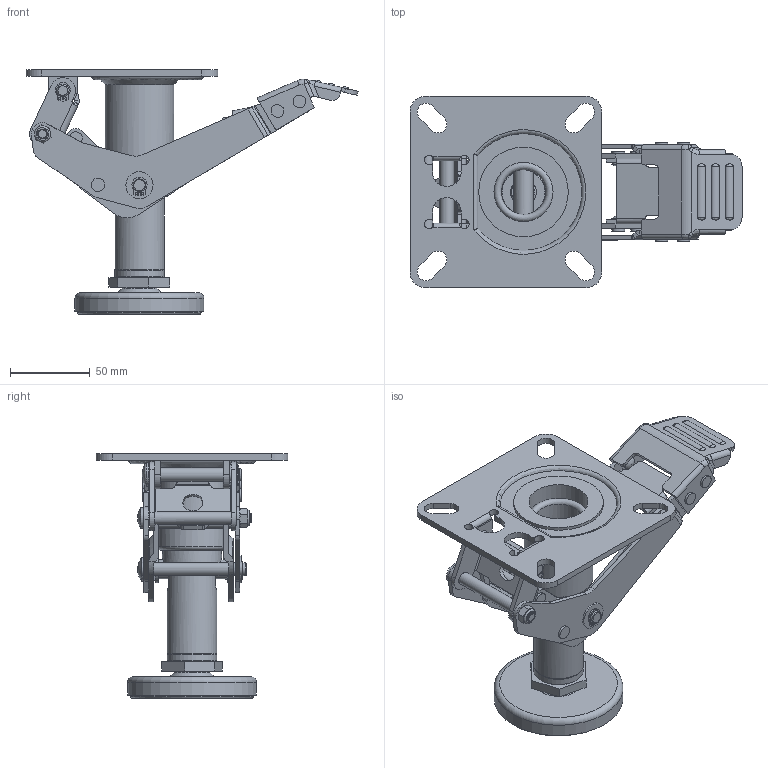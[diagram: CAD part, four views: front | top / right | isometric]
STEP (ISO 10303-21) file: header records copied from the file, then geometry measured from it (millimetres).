
FILE_DESCRIPTION(/* description */ (''),/* implementation_level */ '2;1');
FILE_NAME(/* name */ '99B02_5.stp',/* time_stamp */ '2022-10-07T12:44:04+08:00',/* author */ (''),/* organization */ (''),/* preprocessor_version */ 'ST-DEVELOPER v14',/* originating_system */ 'SIEMENS PLM Software NX 8.0',/* authorisation */ '');
FILE_SCHEMA (('AUTOMOTIVE_DESIGN { 1 0 10303 214 3 1 1 1 }'));
Length unit declared in the file: millimetre
Products named in the file (1): 99B02_5
Bounding box: 207.72 x 120 x 153 mm (x, y, z)
Volume: 265918 mm3; surface area: 152238.1 mm2
Topology: 1 solids, 16 shells, 767 faces, 1902 edges, 1215 vertices
Faces by surface type: plane 355, cylinder 271, bspline 45, torus 42, cone 40, sphere 12, revolution 1, extrusion 1
Full cylindrical faces by diameter (mm): 1.194 x4, 5 x10, 5.2 x4, 5.3 x10, 6 x2, 6.3 x3, 7.3 x1, 7.4 x1, 8 x24, 8.2 x2, 8.3 x1, 8.4 x2, 8.5 x4, 8.6 x4, 10 x1, 12 x1, 13 x1, 14.7 x2, 17 x3, 25 x1, 28 x1, 30.6 x1, 31 x1, 31.2 x2, 36.6 x1, 37 x3, 42.2 x1, 43 x2, 43.1 x1, 48.2 x1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
Entity records: 33742 total; most frequent: CARTESIAN_POINT 16490, DIRECTION 3521, ORIENTED_EDGE 3382, EDGE_CURVE 1691, AXIS2_PLACEMENT_3D 1374, VERTEX_POINT 1159, EDGE_LOOP 1057, VECTOR 772
